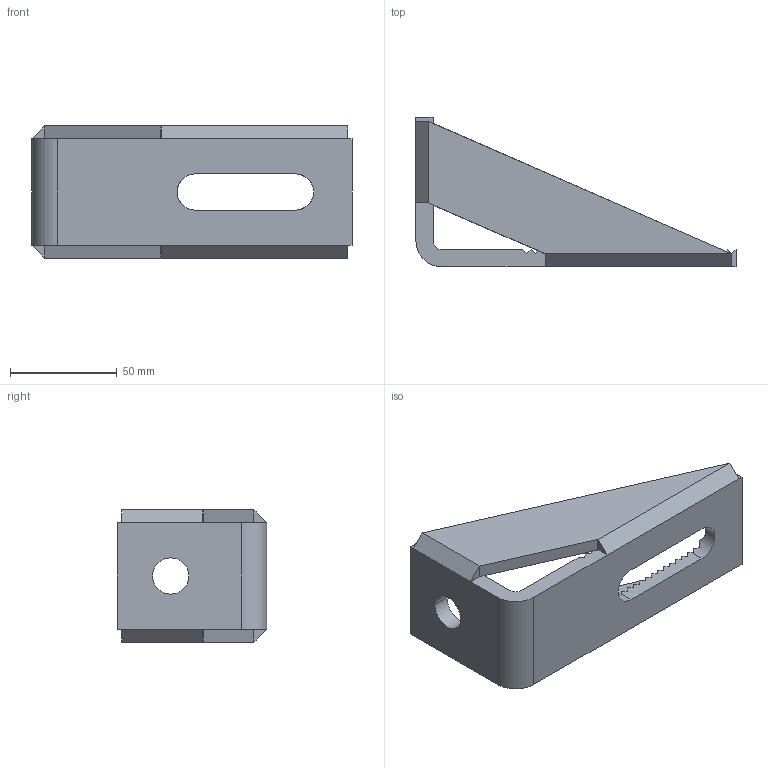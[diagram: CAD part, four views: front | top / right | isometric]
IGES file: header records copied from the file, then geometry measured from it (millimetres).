
Start section: 3D InterOp IGES (Version 26 1 0), Spatial Corp. Copyright (c) 1999-2007.
Global section: file name: PARA150708R-2.igs; native system: Spatial Corp.; preprocessor: 3D InterOp GENERIC/IGES 3.0; author: Noname; organization: Noname; date: 20181022.154054; units: millimetre
Bounding box: 150 x 70 x 62 mm (x, y, z)
Surface area: 43085.7 mm2 (no closed solid volume)
Topology: 0 solids, 0 shells, 130 faces, 758 edges, 758 vertices
Faces by surface type: extrusion 123, revolution 7
